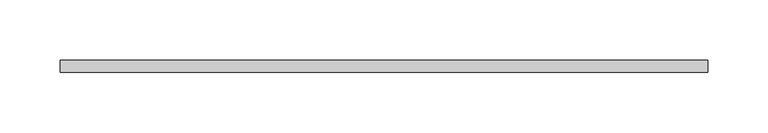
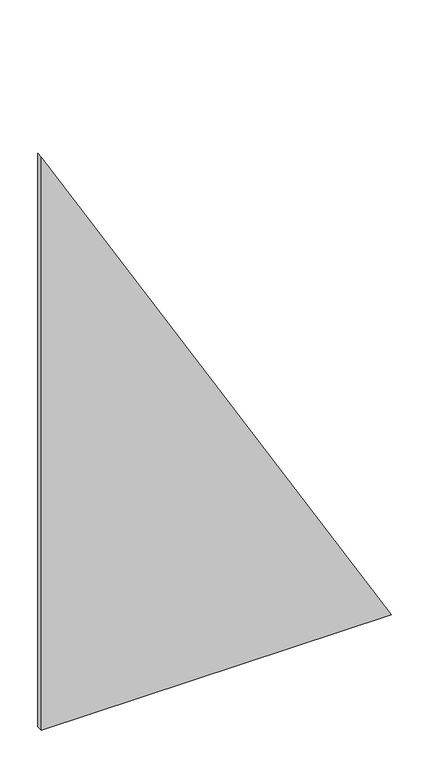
"""IFC4 building model written with IfcOpenShell, lengths in millimetres: plate geometry, 系統嵌板 : 玻璃 1.0cm."""

from ifc_helpers import new_model, si_unit, frame, origin, place, context, project, spatial, polyline, outline, extrude, source, transform, mapped, element, save


def plate_5fb26f92(model_context):
    return source(origin(), model_context, "Body", "SweptSolid", [
        extrude(outline(polyline([(0.0, -268.6932203), (0.0, 268.6932203), (930.7806183, -268.6932203), (0.0, -268.6932203)])), frame((0.0, -5.0, 0.0), z_axis=(0.0, 1.0, 0.0), x_axis=(0.0, 0.0, 1.0)), (0.0, 0.0, 1.0), 10.0),
    ])


if __name__ == "__main__":
    model = new_model("IFC4")
    model_context = context("Model", 3, world=origin())
    ifc_project = project(units=[si_unit("LENGTHUNIT", "METRE", prefix="MILLI")], contexts=[model_context])
    site = spatial("IfcSite", under=ifc_project)
    building = spatial("IfcBuilding", under=site)
    placement = place(None, origin())
    plate_shape = plate_5fb26f92(model_context)
    element("IfcPlate", 1, ObjectType="系統嵌板 : 玻璃 1.0cm", at=placement, inside=building, context=model_context, shape_type="MappedRepresentation", body=[
        mapped(plate_shape, transform((0.0, 0.0, 0.0), x_axis=(1.0, 0.0, 0.0), y_axis=(0.0, 1.0, 0.0), z_axis=(0.0, 0.0, 1.0))),
    ])
    save(model, "model.ifc")
